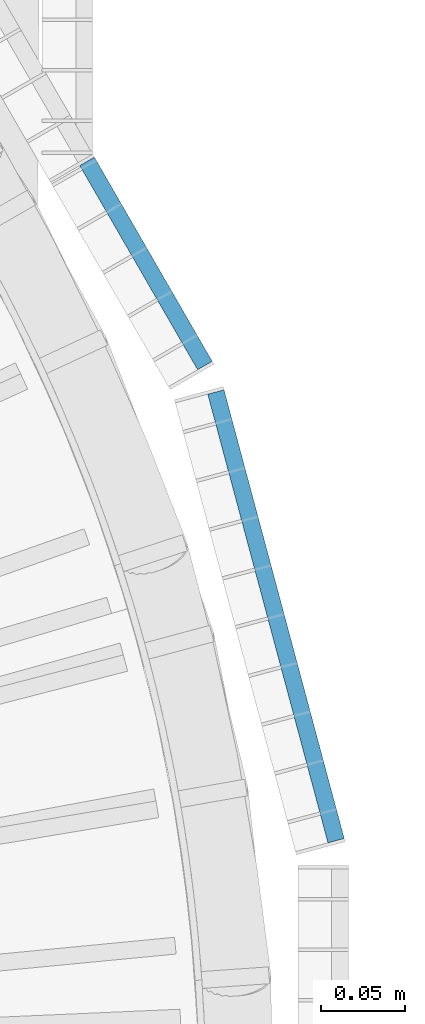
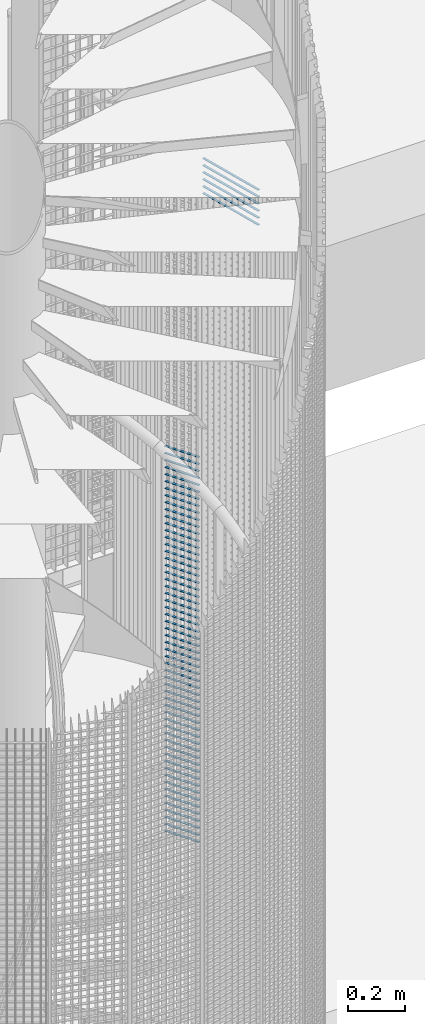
# One storey, part 287 of 1183: 62 beams, 2 elements without a shape of their own.
"""IFC2X3 building model written with IfcOpenShell, lengths in millimetres."""

from ifc_helpers import new_model, si_unit, frame, origin_with_axes, origin_2d_with_axis, place, context, subcontext, project, spatial, rectangle, extrude, material, type_object, element, aggregate, save


model = new_model("IFC2X3")

# Units and contexts
model_context = context("Model", 3, precision=1e-05, world=origin_with_axes())
body_context = subcontext(model_context, "Body", "Model", "MODEL_VIEW")
ifc_project = project(units=[si_unit("LENGTHUNIT", "METRE", prefix="MILLI"), si_unit("AREAUNIT", "SQUARE_METRE"), si_unit("VOLUMEUNIT", "CUBIC_METRE"), si_unit("MASSUNIT", "GRAM", prefix="KILO"), si_unit("TIMEUNIT", "SECOND"), si_unit("PLANEANGLEUNIT", "RADIAN"), si_unit("SOLIDANGLEUNIT", "STERADIAN"), si_unit("THERMODYNAMICTEMPERATUREUNIT", "DEGREE_CELSIUS"), si_unit("LUMINOUSINTENSITYUNIT", "LUMEN")], contexts=[model_context])

# Site, building, storey
site_placement = place(None, origin_with_axes())
site = spatial("IfcSite", under=ifc_project, at=site_placement, Name="Undefined", CompositionType="ELEMENT")
building_placement = place(site_placement, origin_with_axes())
building = spatial("IfcBuilding", under=site, at=building_placement, Name="Undefined", CompositionType="ELEMENT")
storey_placement = place(building_placement, origin_with_axes())
storey = spatial("IfcBuildingStorey", under=building, at=storey_placement, Name="Undefined", CompositionType="ELEMENT", Elevation=0.0)

# Assembly, beams
assembly_1_placement = place(storey_placement, origin_with_axes())
assembly_1 = element("IfcElementAssembly", 1, at=assembly_1_placement, inside=storey, Name="BORDURE", AssemblyPlace="NOTDEFINED", PredefinedType="NOTDEFINED")
ifc_material = material(Name="STEEL/S235JR")
beam_type = type_object("IfcBeamType", Name="PL2*10", PredefinedType="NOTDEFINED")
beam_1_placement = place(assembly_1_placement, frame((1033.29994283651, 437.231999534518, 10680.0), z_axis=(0.866030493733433, 0.499991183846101, 0.0), x_axis=(-0.499991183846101, 0.866030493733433, 0.0)))
beam_1 = element("IfcBeam", 2, at=beam_1_placement, type_object=beam_type, material=ifc_material, Name="ENTRETOISE", context=body_context, shape_type="SweptSolid", body=[
    extrude(rectangle(XDim=2.0, YDim=10.0, at=origin_2d_with_axis()), frame((140.102470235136, 0.0, 0.0), z_axis=(-1.0, 0.0, 0.0), x_axis=(0.0, -1.0, 0.0)), (0.0, 0.0, 1.0), 140.1),
])
beam_2_placement = place(assembly_1_placement, frame((1033.29994283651, 437.231999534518, 10650.0), z_axis=(0.866030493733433, 0.499991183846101, 0.0), x_axis=(-0.499991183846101, 0.866030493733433, 0.0)))
beam_2 = element("IfcBeam", 3, at=beam_2_placement, type_object=beam_type, material=ifc_material, Name="ENTRETOISE", context=body_context, shape_type="SweptSolid", body=[
    extrude(rectangle(XDim=2.0, YDim=10.0, at=origin_2d_with_axis()), frame((140.102470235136, 0.0, 0.0), z_axis=(-1.0, 0.0, 0.0), x_axis=(0.0, -1.0, 0.0)), (0.0, 0.0, 1.0), 140.1),
])
beam_3_placement = place(assembly_1_placement, frame((1033.29994283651, 437.231999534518, 10620.0), z_axis=(0.866030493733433, 0.499991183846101, 0.0), x_axis=(-0.499991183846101, 0.866030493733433, 0.0)))
beam_3 = element("IfcBeam", 4, at=beam_3_placement, type_object=beam_type, material=ifc_material, Name="ENTRETOISE", context=body_context, shape_type="SweptSolid", body=[
    extrude(rectangle(XDim=2.0, YDim=10.0, at=origin_2d_with_axis()), frame((140.102470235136, 0.0, 0.0), z_axis=(-1.0, 0.0, 0.0), x_axis=(0.0, -1.0, 0.0)), (0.0, 0.0, 1.0), 140.1),
])
beam_4_placement = place(assembly_1_placement, frame((1033.29994283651, 437.231999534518, 10590.0), z_axis=(0.866030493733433, 0.499991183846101, 0.0), x_axis=(-0.499991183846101, 0.866030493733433, 0.0)))
beam_4 = element("IfcBeam", 5, at=beam_4_placement, type_object=beam_type, material=ifc_material, Name="ENTRETOISE", context=body_context, shape_type="SweptSolid", body=[
    extrude(rectangle(XDim=2.0, YDim=10.0, at=origin_2d_with_axis()), frame((140.102470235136, 0.0, 0.0), z_axis=(-1.0, 0.0, 0.0), x_axis=(0.0, -1.0, 0.0)), (0.0, 0.0, 1.0), 140.1),
])
beam_5_placement = place(assembly_1_placement, frame((1033.29994283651, 437.231999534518, 10560.0), z_axis=(0.866030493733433, 0.499991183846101, 0.0), x_axis=(-0.499991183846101, 0.866030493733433, 0.0)))
beam_5 = element("IfcBeam", 6, at=beam_5_placement, type_object=beam_type, material=ifc_material, Name="ENTRETOISE", context=body_context, shape_type="SweptSolid", body=[
    extrude(rectangle(XDim=2.0, YDim=10.0, at=origin_2d_with_axis()), frame((140.102470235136, 0.0, 0.0), z_axis=(-1.0, 0.0, 0.0), x_axis=(0.0, -1.0, 0.0)), (0.0, 0.0, 1.0), 140.1),
])
beam_6_placement = place(assembly_1_placement, frame((1033.29994283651, 437.231999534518, 10530.0), z_axis=(0.866030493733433, 0.499991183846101, 0.0), x_axis=(-0.499991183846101, 0.866030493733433, 0.0)))
beam_6 = element("IfcBeam", 7, at=beam_6_placement, type_object=beam_type, material=ifc_material, Name="ENTRETOISE", context=body_context, shape_type="SweptSolid", body=[
    extrude(rectangle(XDim=2.0, YDim=10.0, at=origin_2d_with_axis()), frame((140.102470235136, 0.0, 0.0), z_axis=(-1.0, 0.0, 0.0), x_axis=(0.0, -1.0, 0.0)), (0.0, 0.0, 1.0), 140.1),
])
beam_7_placement = place(assembly_1_placement, frame((1033.29994283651, 437.231999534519, 10500.0), z_axis=(0.866030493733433, 0.499991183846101, 0.0), x_axis=(-0.499991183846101, 0.866030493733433, 0.0)))
beam_7 = element("IfcBeam", 8, at=beam_7_placement, type_object=beam_type, material=ifc_material, Name="ENTRETOISE", context=body_context, shape_type="SweptSolid", body=[
    extrude(rectangle(XDim=2.0, YDim=10.0, at=origin_2d_with_axis()), frame((140.102470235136, 0.0, 0.0), z_axis=(-1.0, 0.0, 0.0), x_axis=(0.0, -1.0, 0.0)), (0.0, 0.0, 1.0), 140.1),
])
beam_8_placement = place(assembly_1_placement, frame((1033.29994283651, 437.231999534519, 10470.0), z_axis=(0.866030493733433, 0.499991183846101, 0.0), x_axis=(-0.499991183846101, 0.866030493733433, 0.0)))
beam_8 = element("IfcBeam", 9, at=beam_8_placement, type_object=beam_type, material=ifc_material, Name="ENTRETOISE", context=body_context, shape_type="SweptSolid", body=[
    extrude(rectangle(XDim=2.0, YDim=10.0, at=origin_2d_with_axis()), frame((140.102470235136, 0.0, 0.0), z_axis=(-1.0, 0.0, 0.0), x_axis=(0.0, -1.0, 0.0)), (0.0, 0.0, 1.0), 140.1),
])
beam_9_placement = place(assembly_1_placement, frame((1033.29994283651, 437.231999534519, 10440.0), z_axis=(0.866030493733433, 0.499991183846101, 0.0), x_axis=(-0.499991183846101, 0.866030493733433, 0.0)))
beam_9 = element("IfcBeam", 10, at=beam_9_placement, type_object=beam_type, material=ifc_material, Name="ENTRETOISE", context=body_context, shape_type="SweptSolid", body=[
    extrude(rectangle(XDim=2.0, YDim=10.0, at=origin_2d_with_axis()), frame((140.102470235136, 0.0, 0.0), z_axis=(-1.0, 0.0, 0.0), x_axis=(0.0, -1.0, 0.0)), (0.0, 0.0, 1.0), 140.1),
])
beam_10_placement = place(assembly_1_placement, frame((1033.29994283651, 437.231999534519, 10410.0), z_axis=(0.866030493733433, 0.499991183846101, 0.0), x_axis=(-0.499991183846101, 0.866030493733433, 0.0)))
beam_10 = element("IfcBeam", 11, at=beam_10_placement, type_object=beam_type, material=ifc_material, Name="ENTRETOISE", context=body_context, shape_type="SweptSolid", body=[
    extrude(rectangle(XDim=2.0, YDim=10.0, at=origin_2d_with_axis()), frame((140.102470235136, 0.0, 0.0), z_axis=(-1.0, 0.0, 0.0), x_axis=(0.0, -1.0, 0.0)), (0.0, 0.0, 1.0), 140.1),
])
beam_11_placement = place(assembly_1_placement, frame((1033.29994283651, 437.231999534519, 10380.0), z_axis=(0.866030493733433, 0.499991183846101, 0.0), x_axis=(-0.499991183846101, 0.866030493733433, 0.0)))
beam_11 = element("IfcBeam", 12, at=beam_11_placement, type_object=beam_type, material=ifc_material, Name="ENTRETOISE", context=body_context, shape_type="SweptSolid", body=[
    extrude(rectangle(XDim=2.0, YDim=10.0, at=origin_2d_with_axis()), frame((140.102470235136, 0.0, 0.0), z_axis=(-1.0, 0.0, 0.0), x_axis=(0.0, -1.0, 0.0)), (0.0, 0.0, 1.0), 140.1),
])
beam_12_placement = place(assembly_1_placement, frame((1033.29994283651, 437.231999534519, 10350.0), z_axis=(0.866030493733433, 0.499991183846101, 0.0), x_axis=(-0.499991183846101, 0.866030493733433, 0.0)))
beam_12 = element("IfcBeam", 13, at=beam_12_placement, type_object=beam_type, material=ifc_material, Name="ENTRETOISE", context=body_context, shape_type="SweptSolid", body=[
    extrude(rectangle(XDim=2.0, YDim=10.0, at=origin_2d_with_axis()), frame((140.102470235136, 0.0, 0.0), z_axis=(-1.0, 0.0, 0.0), x_axis=(0.0, -1.0, 0.0)), (0.0, 0.0, 1.0), 140.1),
])
beam_13_placement = place(assembly_1_placement, frame((1033.29994283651, 437.231999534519, 10320.0), z_axis=(0.866030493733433, 0.499991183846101, 0.0), x_axis=(-0.499991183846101, 0.866030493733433, 0.0)))
beam_13 = element("IfcBeam", 14, at=beam_13_placement, type_object=beam_type, material=ifc_material, Name="ENTRETOISE", context=body_context, shape_type="SweptSolid", body=[
    extrude(rectangle(XDim=2.0, YDim=10.0, at=origin_2d_with_axis()), frame((140.102470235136, 0.0, 0.0), z_axis=(-1.0, 0.0, 0.0), x_axis=(0.0, -1.0, 0.0)), (0.0, 0.0, 1.0), 140.1),
])
beam_14_placement = place(assembly_1_placement, frame((1033.29994283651, 437.231999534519, 10290.0), z_axis=(0.866030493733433, 0.499991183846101, 0.0), x_axis=(-0.499991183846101, 0.866030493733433, 0.0)))
beam_14 = element("IfcBeam", 15, at=beam_14_placement, type_object=beam_type, material=ifc_material, Name="ENTRETOISE", context=body_context, shape_type="SweptSolid", body=[
    extrude(rectangle(XDim=2.0, YDim=10.0, at=origin_2d_with_axis()), frame((140.102470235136, 0.0, 0.0), z_axis=(-1.0, 0.0, 0.0), x_axis=(0.0, -1.0, 0.0)), (0.0, 0.0, 1.0), 140.1),
])
beam_15_placement = place(assembly_1_placement, frame((1033.29994283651, 437.231999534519, 10260.0), z_axis=(0.866030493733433, 0.499991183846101, 0.0), x_axis=(-0.499991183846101, 0.866030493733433, 0.0)))
beam_15 = element("IfcBeam", 16, at=beam_15_placement, type_object=beam_type, material=ifc_material, Name="ENTRETOISE", context=body_context, shape_type="SweptSolid", body=[
    extrude(rectangle(XDim=2.0, YDim=10.0, at=origin_2d_with_axis()), frame((140.102470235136, 0.0, 0.0), z_axis=(-1.0, 0.0, 0.0), x_axis=(0.0, -1.0, 0.0)), (0.0, 0.0, 1.0), 140.1),
])
beam_16_placement = place(assembly_1_placement, frame((1033.29994283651, 437.231999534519, 10230.0), z_axis=(0.866030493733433, 0.499991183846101, 0.0), x_axis=(-0.499991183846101, 0.866030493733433, 0.0)))
beam_16 = element("IfcBeam", 17, at=beam_16_placement, type_object=beam_type, material=ifc_material, Name="ENTRETOISE", context=body_context, shape_type="SweptSolid", body=[
    extrude(rectangle(XDim=2.0, YDim=10.0, at=origin_2d_with_axis()), frame((140.102470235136, 0.0, 0.0), z_axis=(-1.0, 0.0, 0.0), x_axis=(0.0, -1.0, 0.0)), (0.0, 0.0, 1.0), 140.1),
])
beam_17_placement = place(assembly_1_placement, frame((1033.29994283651, 437.231999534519, 10200.0), z_axis=(0.866030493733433, 0.499991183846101, 0.0), x_axis=(-0.499991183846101, 0.866030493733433, 0.0)))
beam_17 = element("IfcBeam", 18, at=beam_17_placement, type_object=beam_type, material=ifc_material, Name="ENTRETOISE", context=body_context, shape_type="SweptSolid", body=[
    extrude(rectangle(XDim=2.0, YDim=10.0, at=origin_2d_with_axis()), frame((140.102470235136, 0.0, 0.0), z_axis=(-1.0, 0.0, 0.0), x_axis=(0.0, -1.0, 0.0)), (0.0, 0.0, 1.0), 140.1),
])
beam_18_placement = place(assembly_1_placement, frame((1033.29994283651, 437.23199953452, 10170.0), z_axis=(0.866030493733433, 0.499991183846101, 0.0), x_axis=(-0.499991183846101, 0.866030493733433, 0.0)))
beam_18 = element("IfcBeam", 19, at=beam_18_placement, type_object=beam_type, material=ifc_material, Name="ENTRETOISE", context=body_context, shape_type="SweptSolid", body=[
    extrude(rectangle(XDim=2.0, YDim=10.0, at=origin_2d_with_axis()), frame((140.102470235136, 0.0, 0.0), z_axis=(-1.0, 0.0, 0.0), x_axis=(0.0, -1.0, 0.0)), (0.0, 0.0, 1.0), 140.1),
])
beam_19_placement = place(assembly_1_placement, frame((1033.29994283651, 437.23199953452, 10140.0), z_axis=(0.866030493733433, 0.499991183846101, 0.0), x_axis=(-0.499991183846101, 0.866030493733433, 0.0)))
beam_19 = element("IfcBeam", 20, at=beam_19_placement, type_object=beam_type, material=ifc_material, Name="ENTRETOISE", context=body_context, shape_type="SweptSolid", body=[
    extrude(rectangle(XDim=2.0, YDim=10.0, at=origin_2d_with_axis()), frame((140.102470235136, 0.0, 0.0), z_axis=(-1.0, 0.0, 0.0), x_axis=(0.0, -1.0, 0.0)), (0.0, 0.0, 1.0), 140.1),
])
beam_20_placement = place(assembly_1_placement, frame((1033.29994283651, 437.231999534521, 9720.0), z_axis=(0.866030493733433, 0.499991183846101, 0.0), x_axis=(-0.499991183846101, 0.866030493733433, 0.0)))
beam_20 = element("IfcBeam", 21, at=beam_20_placement, type_object=beam_type, material=ifc_material, Name="ENTRETOISE", context=body_context, shape_type="SweptSolid", body=[
    extrude(rectangle(XDim=2.0, YDim=10.0, at=origin_2d_with_axis()), frame((140.102470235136, 0.0, 0.0), z_axis=(-1.0, 0.0, 0.0), x_axis=(0.0, -1.0, 0.0)), (0.0, 0.0, 1.0), 140.1),
])
beam_21_placement = place(assembly_1_placement, frame((1033.29994283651, 437.231999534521, 9690.0), z_axis=(0.866030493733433, 0.499991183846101, 0.0), x_axis=(-0.499991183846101, 0.866030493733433, 0.0)))
beam_21 = element("IfcBeam", 22, at=beam_21_placement, type_object=beam_type, material=ifc_material, Name="ENTRETOISE", context=body_context, shape_type="SweptSolid", body=[
    extrude(rectangle(XDim=2.0, YDim=10.0, at=origin_2d_with_axis()), frame((140.102470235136, 0.0, 0.0), z_axis=(-1.0, 0.0, 0.0), x_axis=(0.0, -1.0, 0.0)), (0.0, 0.0, 1.0), 140.1),
])
beam_22_placement = place(assembly_1_placement, frame((1033.29994283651, 437.231999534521, 9750.0), z_axis=(0.866030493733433, 0.499991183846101, 0.0), x_axis=(-0.499991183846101, 0.866030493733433, 0.0)))
beam_22 = element("IfcBeam", 23, at=beam_22_placement, type_object=beam_type, material=ifc_material, Name="ENTRETOISE", context=body_context, shape_type="SweptSolid", body=[
    extrude(rectangle(XDim=2.0, YDim=10.0, at=origin_2d_with_axis()), frame((140.102470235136, 0.0, 0.0), z_axis=(-1.0, 0.0, 0.0), x_axis=(0.0, -1.0, 0.0)), (0.0, 0.0, 1.0), 140.1),
])
beam_23_placement = place(assembly_1_placement, frame((1033.29994283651, 437.231999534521, 9660.0), z_axis=(0.866030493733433, 0.499991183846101, 0.0), x_axis=(-0.499991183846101, 0.866030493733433, 0.0)))
beam_23 = element("IfcBeam", 24, at=beam_23_placement, type_object=beam_type, material=ifc_material, Name="ENTRETOISE", context=body_context, shape_type="SweptSolid", body=[
    extrude(rectangle(XDim=2.0, YDim=10.0, at=origin_2d_with_axis()), frame((140.102470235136, 0.0, 0.0), z_axis=(-1.0, 0.0, 0.0), x_axis=(0.0, -1.0, 0.0)), (0.0, 0.0, 1.0), 140.1),
])
beam_24_placement = place(assembly_1_placement, frame((1033.29994283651, 437.231999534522, 9630.0), z_axis=(0.866030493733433, 0.499991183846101, 0.0), x_axis=(-0.499991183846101, 0.866030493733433, 0.0)))
beam_24 = element("IfcBeam", 25, at=beam_24_placement, type_object=beam_type, material=ifc_material, Name="ENTRETOISE", context=body_context, shape_type="SweptSolid", body=[
    extrude(rectangle(XDim=2.0, YDim=10.0, at=origin_2d_with_axis()), frame((140.102470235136, 0.0, 0.0), z_axis=(-1.0, 0.0, 0.0), x_axis=(0.0, -1.0, 0.0)), (0.0, 0.0, 1.0), 140.1),
])
beam_25_placement = place(assembly_1_placement, frame((1033.29994283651, 437.231999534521, 9780.0), z_axis=(0.866030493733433, 0.499991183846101, 0.0), x_axis=(-0.499991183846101, 0.866030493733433, 0.0)))
beam_25 = element("IfcBeam", 26, at=beam_25_placement, type_object=beam_type, material=ifc_material, Name="ENTRETOISE", context=body_context, shape_type="SweptSolid", body=[
    extrude(rectangle(XDim=2.0, YDim=10.0, at=origin_2d_with_axis()), frame((140.102470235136, 0.0, 0.0), z_axis=(-1.0, 0.0, 0.0), x_axis=(0.0, -1.0, 0.0)), (0.0, 0.0, 1.0), 140.1),
])
beam_26_placement = place(assembly_1_placement, frame((1033.29994283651, 437.231999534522, 9600.0), z_axis=(0.866030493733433, 0.499991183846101, 0.0), x_axis=(-0.499991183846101, 0.866030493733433, 0.0)))
beam_26 = element("IfcBeam", 27, at=beam_26_placement, type_object=beam_type, material=ifc_material, Name="ENTRETOISE", context=body_context, shape_type="SweptSolid", body=[
    extrude(rectangle(XDim=2.0, YDim=10.0, at=origin_2d_with_axis()), frame((140.102470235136, 0.0, 0.0), z_axis=(-1.0, 0.0, 0.0), x_axis=(0.0, -1.0, 0.0)), (0.0, 0.0, 1.0), 140.1),
])
beam_27_placement = place(assembly_1_placement, frame((1033.29994283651, 437.231999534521, 9810.0), z_axis=(0.866030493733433, 0.499991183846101, 0.0), x_axis=(-0.499991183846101, 0.866030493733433, 0.0)))
beam_27 = element("IfcBeam", 28, at=beam_27_placement, type_object=beam_type, material=ifc_material, Name="ENTRETOISE", context=body_context, shape_type="SweptSolid", body=[
    extrude(rectangle(XDim=2.0, YDim=10.0, at=origin_2d_with_axis()), frame((140.102470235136, 0.0, 0.0), z_axis=(-1.0, 0.0, 0.0), x_axis=(0.0, -1.0, 0.0)), (0.0, 0.0, 1.0), 140.1),
])
beam_28_placement = place(assembly_1_placement, frame((1033.29994283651, 437.231999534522, 9570.0), z_axis=(0.866030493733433, 0.499991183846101, 0.0), x_axis=(-0.499991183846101, 0.866030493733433, 0.0)))
beam_28 = element("IfcBeam", 29, at=beam_28_placement, type_object=beam_type, material=ifc_material, Name="ENTRETOISE", context=body_context, shape_type="SweptSolid", body=[
    extrude(rectangle(XDim=2.0, YDim=10.0, at=origin_2d_with_axis()), frame((140.102470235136, 0.0, 0.0), z_axis=(-1.0, 0.0, 0.0), x_axis=(0.0, -1.0, 0.0)), (0.0, 0.0, 1.0), 140.1),
])
beam_29_placement = place(assembly_1_placement, frame((1033.29994283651, 437.231999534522, 9540.0), z_axis=(0.866030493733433, 0.499991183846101, 0.0), x_axis=(-0.499991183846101, 0.866030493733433, 0.0)))
beam_29 = element("IfcBeam", 30, at=beam_29_placement, type_object=beam_type, material=ifc_material, Name="ENTRETOISE", context=body_context, shape_type="SweptSolid", body=[
    extrude(rectangle(XDim=2.0, YDim=10.0, at=origin_2d_with_axis()), frame((140.102470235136, 0.0, 0.0), z_axis=(-1.0, 0.0, 0.0), x_axis=(0.0, -1.0, 0.0)), (0.0, 0.0, 1.0), 140.1),
])
beam_30_placement = place(assembly_1_placement, frame((1033.29994283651, 437.231999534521, 9840.0), z_axis=(0.866030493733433, 0.499991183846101, 0.0), x_axis=(-0.499991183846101, 0.866030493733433, 0.0)))
beam_30 = element("IfcBeam", 31, at=beam_30_placement, type_object=beam_type, material=ifc_material, Name="ENTRETOISE", context=body_context, shape_type="SweptSolid", body=[
    extrude(rectangle(XDim=2.0, YDim=10.0, at=origin_2d_with_axis()), frame((140.102470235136, 0.0, 0.0), z_axis=(-1.0, 0.0, 0.0), x_axis=(0.0, -1.0, 0.0)), (0.0, 0.0, 1.0), 140.1),
])
beam_31_placement = place(assembly_1_placement, frame((1033.29994283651, 437.231999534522, 9510.0), z_axis=(0.866030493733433, 0.499991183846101, 0.0), x_axis=(-0.499991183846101, 0.866030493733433, 0.0)))
beam_31 = element("IfcBeam", 32, at=beam_31_placement, type_object=beam_type, material=ifc_material, Name="ENTRETOISE", context=body_context, shape_type="SweptSolid", body=[
    extrude(rectangle(XDim=2.0, YDim=10.0, at=origin_2d_with_axis()), frame((140.102470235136, 0.0, 0.0), z_axis=(-1.0, 0.0, 0.0), x_axis=(0.0, -1.0, 0.0)), (0.0, 0.0, 1.0), 140.1),
])
beam_32_placement = place(assembly_1_placement, frame((1033.29994283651, 437.231999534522, 9480.0), z_axis=(0.866030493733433, 0.499991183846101, 0.0), x_axis=(-0.499991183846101, 0.866030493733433, 0.0)))
beam_32 = element("IfcBeam", 33, at=beam_32_placement, type_object=beam_type, material=ifc_material, Name="ENTRETOISE", context=body_context, shape_type="SweptSolid", body=[
    extrude(rectangle(XDim=2.0, YDim=10.0, at=origin_2d_with_axis()), frame((140.102470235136, 0.0, 0.0), z_axis=(-1.0, 0.0, 0.0), x_axis=(0.0, -1.0, 0.0)), (0.0, 0.0, 1.0), 140.1),
])
beam_33_placement = place(assembly_1_placement, frame((1033.29994283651, 437.231999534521, 9870.0), z_axis=(0.866030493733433, 0.499991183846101, 0.0), x_axis=(-0.499991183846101, 0.866030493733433, 0.0)))
beam_33 = element("IfcBeam", 34, at=beam_33_placement, type_object=beam_type, material=ifc_material, Name="ENTRETOISE", context=body_context, shape_type="SweptSolid", body=[
    extrude(rectangle(XDim=2.0, YDim=10.0, at=origin_2d_with_axis()), frame((140.102470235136, 0.0, 0.0), z_axis=(-1.0, 0.0, 0.0), x_axis=(0.0, -1.0, 0.0)), (0.0, 0.0, 1.0), 140.1),
])
beam_34_placement = place(assembly_1_placement, frame((1033.29994283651, 437.231999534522, 9450.0), z_axis=(0.866030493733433, 0.499991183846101, 0.0), x_axis=(-0.499991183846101, 0.866030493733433, 0.0)))
beam_34 = element("IfcBeam", 35, at=beam_34_placement, type_object=beam_type, material=ifc_material, Name="ENTRETOISE", context=body_context, shape_type="SweptSolid", body=[
    extrude(rectangle(XDim=2.0, YDim=10.0, at=origin_2d_with_axis()), frame((140.102470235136, 0.0, 0.0), z_axis=(-1.0, 0.0, 0.0), x_axis=(0.0, -1.0, 0.0)), (0.0, 0.0, 1.0), 140.1),
])
beam_35_placement = place(assembly_1_placement, frame((1033.29994283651, 437.231999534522, 9420.0), z_axis=(0.866030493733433, 0.499991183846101, 0.0), x_axis=(-0.499991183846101, 0.866030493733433, 0.0)))
beam_35 = element("IfcBeam", 36, at=beam_35_placement, type_object=beam_type, material=ifc_material, Name="ENTRETOISE", context=body_context, shape_type="SweptSolid", body=[
    extrude(rectangle(XDim=2.0, YDim=10.0, at=origin_2d_with_axis()), frame((140.102470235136, 0.0, 0.0), z_axis=(-1.0, 0.0, 0.0), x_axis=(0.0, -1.0, 0.0)), (0.0, 0.0, 1.0), 140.1),
])
beam_36_placement = place(assembly_1_placement, frame((1033.29994283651, 437.231999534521, 9900.0), z_axis=(0.866030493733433, 0.499991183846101, 0.0), x_axis=(-0.499991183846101, 0.866030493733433, 0.0)))
beam_36 = element("IfcBeam", 37, at=beam_36_placement, type_object=beam_type, material=ifc_material, Name="ENTRETOISE", context=body_context, shape_type="SweptSolid", body=[
    extrude(rectangle(XDim=2.0, YDim=10.0, at=origin_2d_with_axis()), frame((140.102470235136, 0.0, 0.0), z_axis=(-1.0, 0.0, 0.0), x_axis=(0.0, -1.0, 0.0)), (0.0, 0.0, 1.0), 140.1),
])
beam_37_placement = place(assembly_1_placement, frame((1033.29994283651, 437.231999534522, 9390.0), z_axis=(0.866030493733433, 0.499991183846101, 0.0), x_axis=(-0.499991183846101, 0.866030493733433, 0.0)))
beam_37 = element("IfcBeam", 38, at=beam_37_placement, type_object=beam_type, material=ifc_material, Name="ENTRETOISE", context=body_context, shape_type="SweptSolid", body=[
    extrude(rectangle(XDim=2.0, YDim=10.0, at=origin_2d_with_axis()), frame((140.102470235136, 0.0, 0.0), z_axis=(-1.0, 0.0, 0.0), x_axis=(0.0, -1.0, 0.0)), (0.0, 0.0, 1.0), 140.1),
])
beam_38_placement = place(assembly_1_placement, frame((1033.29994283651, 437.23199953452, 9930.0), z_axis=(0.866030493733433, 0.499991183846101, 0.0), x_axis=(-0.499991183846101, 0.866030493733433, 0.0)))
beam_38 = element("IfcBeam", 39, at=beam_38_placement, type_object=beam_type, material=ifc_material, Name="ENTRETOISE", context=body_context, shape_type="SweptSolid", body=[
    extrude(rectangle(XDim=2.0, YDim=10.0, at=origin_2d_with_axis()), frame((140.102470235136, 0.0, 0.0), z_axis=(-1.0, 0.0, 0.0), x_axis=(0.0, -1.0, 0.0)), (0.0, 0.0, 1.0), 140.1),
])
beam_39_placement = place(assembly_1_placement, frame((1033.29994283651, 437.231999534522, 9360.0), z_axis=(0.866030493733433, 0.499991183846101, 0.0), x_axis=(-0.499991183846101, 0.866030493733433, 0.0)))
beam_39 = element("IfcBeam", 40, at=beam_39_placement, type_object=beam_type, material=ifc_material, Name="ENTRETOISE", context=body_context, shape_type="SweptSolid", body=[
    extrude(rectangle(XDim=2.0, YDim=10.0, at=origin_2d_with_axis()), frame((140.102470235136, 0.0, 0.0), z_axis=(-1.0, 0.0, 0.0), x_axis=(0.0, -1.0, 0.0)), (0.0, 0.0, 1.0), 140.1),
])
beam_40_placement = place(assembly_1_placement, frame((1033.29994283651, 437.231999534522, 9330.0), z_axis=(0.866030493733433, 0.499991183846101, 0.0), x_axis=(-0.499991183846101, 0.866030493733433, 0.0)))
beam_40 = element("IfcBeam", 41, at=beam_40_placement, type_object=beam_type, material=ifc_material, Name="ENTRETOISE", context=body_context, shape_type="SweptSolid", body=[
    extrude(rectangle(XDim=2.0, YDim=10.0, at=origin_2d_with_axis()), frame((140.102470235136, 0.0, 0.0), z_axis=(-1.0, 0.0, 0.0), x_axis=(0.0, -1.0, 0.0)), (0.0, 0.0, 1.0), 140.1),
])
beam_41_placement = place(assembly_1_placement, frame((1033.29994283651, 437.23199953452, 9960.0), z_axis=(0.866030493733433, 0.499991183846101, 0.0), x_axis=(-0.499991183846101, 0.866030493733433, 0.0)))
beam_41 = element("IfcBeam", 42, at=beam_41_placement, type_object=beam_type, material=ifc_material, Name="ENTRETOISE", context=body_context, shape_type="SweptSolid", body=[
    extrude(rectangle(XDim=2.0, YDim=10.0, at=origin_2d_with_axis()), frame((140.102470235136, 0.0, 0.0), z_axis=(-1.0, 0.0, 0.0), x_axis=(0.0, -1.0, 0.0)), (0.0, 0.0, 1.0), 140.1),
])
beam_42_placement = place(assembly_1_placement, frame((1033.29994283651, 437.231999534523, 9300.0), z_axis=(0.866030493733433, 0.499991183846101, 0.0), x_axis=(-0.499991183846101, 0.866030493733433, 0.0)))
beam_42 = element("IfcBeam", 43, at=beam_42_placement, type_object=beam_type, material=ifc_material, Name="ENTRETOISE", context=body_context, shape_type="SweptSolid", body=[
    extrude(rectangle(XDim=2.0, YDim=10.0, at=origin_2d_with_axis()), frame((140.102470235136, 0.0, 0.0), z_axis=(-1.0, 0.0, 0.0), x_axis=(0.0, -1.0, 0.0)), (0.0, 0.0, 1.0), 140.1),
])
beam_43_placement = place(assembly_1_placement, frame((1033.29994283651, 437.231999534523, 9270.0), z_axis=(0.866030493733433, 0.499991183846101, 0.0), x_axis=(-0.499991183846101, 0.866030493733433, 0.0)))
beam_43 = element("IfcBeam", 44, at=beam_43_placement, type_object=beam_type, material=ifc_material, Name="ENTRETOISE", context=body_context, shape_type="SweptSolid", body=[
    extrude(rectangle(XDim=2.0, YDim=10.0, at=origin_2d_with_axis()), frame((140.102470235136, 0.0, 0.0), z_axis=(-1.0, 0.0, 0.0), x_axis=(0.0, -1.0, 0.0)), (0.0, 0.0, 1.0), 140.1),
])
beam_44_placement = place(assembly_1_placement, frame((1033.29994283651, 437.23199953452, 9990.0), z_axis=(0.866030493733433, 0.499991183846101, 0.0), x_axis=(-0.499991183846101, 0.866030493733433, 0.0)))
beam_44 = element("IfcBeam", 45, at=beam_44_placement, type_object=beam_type, material=ifc_material, Name="ENTRETOISE", context=body_context, shape_type="SweptSolid", body=[
    extrude(rectangle(XDim=2.0, YDim=10.0, at=origin_2d_with_axis()), frame((140.102470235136, 0.0, 0.0), z_axis=(-1.0, 0.0, 0.0), x_axis=(0.0, -1.0, 0.0)), (0.0, 0.0, 1.0), 140.1),
])
beam_45_placement = place(assembly_1_placement, frame((1033.29994283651, 437.231999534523, 9240.0), z_axis=(0.866030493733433, 0.499991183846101, 0.0), x_axis=(-0.499991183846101, 0.866030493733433, 0.0)))
beam_45 = element("IfcBeam", 46, at=beam_45_placement, type_object=beam_type, material=ifc_material, Name="ENTRETOISE", context=body_context, shape_type="SweptSolid", body=[
    extrude(rectangle(XDim=2.0, YDim=10.0, at=origin_2d_with_axis()), frame((140.102470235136, 0.0, 0.0), z_axis=(-1.0, 0.0, 0.0), x_axis=(0.0, -1.0, 0.0)), (0.0, 0.0, 1.0), 140.1),
])
beam_46_placement = place(assembly_1_placement, frame((1033.29994283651, 437.23199953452, 10020.0), z_axis=(0.866030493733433, 0.499991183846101, 0.0), x_axis=(-0.499991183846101, 0.866030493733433, 0.0)))
beam_46 = element("IfcBeam", 47, at=beam_46_placement, type_object=beam_type, material=ifc_material, Name="ENTRETOISE", context=body_context, shape_type="SweptSolid", body=[
    extrude(rectangle(XDim=2.0, YDim=10.0, at=origin_2d_with_axis()), frame((140.102470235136, 0.0, 0.0), z_axis=(-1.0, 0.0, 0.0), x_axis=(0.0, -1.0, 0.0)), (0.0, 0.0, 1.0), 140.1),
])
beam_47_placement = place(assembly_1_placement, frame((1033.29994283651, 437.231999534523, 9210.0), z_axis=(0.866030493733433, 0.499991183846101, 0.0), x_axis=(-0.499991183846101, 0.866030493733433, 0.0)))
beam_47 = element("IfcBeam", 48, at=beam_47_placement, type_object=beam_type, material=ifc_material, Name="ENTRETOISE", context=body_context, shape_type="SweptSolid", body=[
    extrude(rectangle(XDim=2.0, YDim=10.0, at=origin_2d_with_axis()), frame((140.102470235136, 0.0, 0.0), z_axis=(-1.0, 0.0, 0.0), x_axis=(0.0, -1.0, 0.0)), (0.0, 0.0, 1.0), 140.1),
])
beam_48_placement = place(assembly_1_placement, frame((1033.29994283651, 437.231999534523, 9180.0), z_axis=(0.866030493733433, 0.499991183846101, 0.0), x_axis=(-0.499991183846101, 0.866030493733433, 0.0)))
beam_48 = element("IfcBeam", 49, at=beam_48_placement, type_object=beam_type, material=ifc_material, Name="ENTRETOISE", context=body_context, shape_type="SweptSolid", body=[
    extrude(rectangle(XDim=2.0, YDim=10.0, at=origin_2d_with_axis()), frame((140.102470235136, 0.0, 0.0), z_axis=(-1.0, 0.0, 0.0), x_axis=(0.0, -1.0, 0.0)), (0.0, 0.0, 1.0), 140.1),
])
beam_49_placement = place(assembly_1_placement, frame((1033.29994283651, 437.23199953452, 10050.0), z_axis=(0.866030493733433, 0.499991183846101, 0.0), x_axis=(-0.499991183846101, 0.866030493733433, 0.0)))
beam_49 = element("IfcBeam", 50, at=beam_49_placement, type_object=beam_type, material=ifc_material, Name="ENTRETOISE", context=body_context, shape_type="SweptSolid", body=[
    extrude(rectangle(XDim=2.0, YDim=10.0, at=origin_2d_with_axis()), frame((140.102470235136, 0.0, 0.0), z_axis=(-1.0, 0.0, 0.0), x_axis=(0.0, -1.0, 0.0)), (0.0, 0.0, 1.0), 140.1),
])
beam_50_placement = place(assembly_1_placement, frame((1033.29994283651, 437.231999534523, 9150.0), z_axis=(0.866030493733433, 0.499991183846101, 0.0), x_axis=(-0.499991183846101, 0.866030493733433, 0.0)))
beam_50 = element("IfcBeam", 51, at=beam_50_placement, type_object=beam_type, material=ifc_material, Name="ENTRETOISE", context=body_context, shape_type="SweptSolid", body=[
    extrude(rectangle(XDim=2.0, YDim=10.0, at=origin_2d_with_axis()), frame((140.102470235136, 0.0, 0.0), z_axis=(-1.0, 0.0, 0.0), x_axis=(0.0, -1.0, 0.0)), (0.0, 0.0, 1.0), 140.1),
])
beam_51_placement = place(assembly_1_placement, frame((1033.29994283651, 437.231999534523, 9120.0), z_axis=(0.866030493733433, 0.499991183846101, 0.0), x_axis=(-0.499991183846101, 0.866030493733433, 0.0)))
beam_51 = element("IfcBeam", 52, at=beam_51_placement, type_object=beam_type, material=ifc_material, Name="ENTRETOISE", context=body_context, shape_type="SweptSolid", body=[
    extrude(rectangle(XDim=2.0, YDim=10.0, at=origin_2d_with_axis()), frame((140.102470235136, 0.0, 0.0), z_axis=(-1.0, 0.0, 0.0), x_axis=(0.0, -1.0, 0.0)), (0.0, 0.0, 1.0), 140.1),
])
beam_52_placement = place(assembly_1_placement, frame((1033.29994283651, 437.23199953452, 10080.0), z_axis=(0.866030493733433, 0.499991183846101, 0.0), x_axis=(-0.499991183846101, 0.866030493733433, 0.0)))
beam_52 = element("IfcBeam", 53, at=beam_52_placement, type_object=beam_type, material=ifc_material, Name="ENTRETOISE", context=body_context, shape_type="SweptSolid", body=[
    extrude(rectangle(XDim=2.0, YDim=10.0, at=origin_2d_with_axis()), frame((140.102470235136, 0.0, 0.0), z_axis=(-1.0, 0.0, 0.0), x_axis=(0.0, -1.0, 0.0)), (0.0, 0.0, 1.0), 140.1),
])
beam_53_placement = place(assembly_1_placement, frame((1033.29994283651, 437.231999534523, 9090.0), z_axis=(0.866030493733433, 0.499991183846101, 0.0), x_axis=(-0.499991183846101, 0.866030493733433, 0.0)))
beam_53 = element("IfcBeam", 54, at=beam_53_placement, type_object=beam_type, material=ifc_material, Name="ENTRETOISE", context=body_context, shape_type="SweptSolid", body=[
    extrude(rectangle(XDim=2.0, YDim=10.0, at=origin_2d_with_axis()), frame((140.102470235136, 0.0, 0.0), z_axis=(-1.0, 0.0, 0.0), x_axis=(0.0, -1.0, 0.0)), (0.0, 0.0, 1.0), 140.1),
])
beam_54_placement = place(assembly_1_placement, frame((1033.2999428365, 437.231999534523, 9060.0), z_axis=(0.866030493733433, 0.499991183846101, 0.0), x_axis=(-0.499991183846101, 0.866030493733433, 0.0)))
beam_54 = element("IfcBeam", 55, at=beam_54_placement, type_object=beam_type, material=ifc_material, Name="ENTRETOISE", context=body_context, shape_type="SweptSolid", body=[
    extrude(rectangle(XDim=2.0, YDim=10.0, at=origin_2d_with_axis()), frame((140.102470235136, 0.0, 0.0), z_axis=(-1.0, 0.0, 0.0), x_axis=(0.0, -1.0, 0.0)), (0.0, 0.0, 1.0), 140.1),
])
beam_55_placement = place(assembly_1_placement, frame((1033.29994283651, 437.23199953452, 10110.0), z_axis=(0.866030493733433, 0.499991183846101, 0.0), x_axis=(-0.499991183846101, 0.866030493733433, 0.0)))
beam_55 = element("IfcBeam", 56, at=beam_55_placement, type_object=beam_type, material=ifc_material, Name="ENTRETOISE", context=body_context, shape_type="SweptSolid", body=[
    extrude(rectangle(XDim=2.0, YDim=10.0, at=origin_2d_with_axis()), frame((140.102470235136, 0.0, 0.0), z_axis=(-1.0, 0.0, 0.0), x_axis=(0.0, -1.0, 0.0)), (0.0, 0.0, 1.0), 140.1),
])
beam_56_placement = place(assembly_1_placement, frame((1033.2999428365, 437.231999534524, 9030.0), z_axis=(0.866030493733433, 0.499991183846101, 0.0), x_axis=(-0.499991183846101, 0.866030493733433, 0.0)))
beam_56 = element("IfcBeam", 57, at=beam_56_placement, type_object=beam_type, material=ifc_material, Name="ENTRETOISE", context=body_context, shape_type="SweptSolid", body=[
    extrude(rectangle(XDim=2.0, YDim=10.0, at=origin_2d_with_axis()), frame((140.102470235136, 0.0, 0.0), z_axis=(-1.0, 0.0, 0.0), x_axis=(0.0, -1.0, 0.0)), (0.0, 0.0, 1.0), 140.1),
])
aggregate(assembly_1, [beam_1, beam_2, beam_3, beam_4, beam_5, beam_6, beam_7, beam_8, beam_9, beam_10, beam_11, beam_12, beam_13, beam_14, beam_15, beam_16, beam_17, beam_18, beam_19, beam_20, beam_21, beam_22, beam_23, beam_24, beam_25, beam_26, beam_27, beam_28, beam_29, beam_30, beam_31, beam_32, beam_33, beam_34, beam_35, beam_36, beam_37, beam_38, beam_39, beam_40, beam_41, beam_42, beam_43, beam_44, beam_45, beam_46, beam_47, beam_48, beam_49, beam_50, beam_51, beam_52, beam_53, beam_54, beam_55, beam_56])

assembly_2_placement = place(storey_placement, origin_with_axes())
assembly_2 = element("IfcElementAssembly", 58, at=assembly_2_placement, inside=storey, Name="BORDURE", AssemblyPlace="NOTDEFINED", PredefinedType="NOTDEFINED")
beam_57_placement = place(assembly_2_placement, frame((1111.25508286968, 154.895926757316, 11970.0), z_axis=(0.965925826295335, 0.258819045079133, 0.0), x_axis=(-0.258819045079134, 0.965925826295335, 0.0)))
beam_57 = element("IfcBeam", 59, at=beam_57_placement, type_object=beam_type, material=ifc_material, Name="ENTRETOISE", context=body_context, shape_type="SweptSolid", body=[
    extrude(rectangle(XDim=2.0, YDim=10.0, at=origin_2d_with_axis()), frame((275.999999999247, 9.09494701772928e-13, 1.53210777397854e-14), z_axis=(-1.0, 0.0, 0.0), x_axis=(0.0, -1.0, 0.0)), (0.0, 0.0, 1.0), 276.0),
])
beam_58_placement = place(assembly_2_placement, frame((1111.25508286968, 154.895926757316, 11940.0), z_axis=(0.965925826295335, 0.258819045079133, 0.0), x_axis=(-0.258819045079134, 0.965925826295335, 0.0)))
beam_58 = element("IfcBeam", 60, at=beam_58_placement, type_object=beam_type, material=ifc_material, Name="ENTRETOISE", context=body_context, shape_type="SweptSolid", body=[
    extrude(rectangle(XDim=2.0, YDim=10.0, at=origin_2d_with_axis()), frame((275.999999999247, 9.09494701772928e-13, 1.53210777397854e-14), z_axis=(-1.0, 0.0, 0.0), x_axis=(0.0, -1.0, 0.0)), (0.0, 0.0, 1.0), 276.0),
])
beam_59_placement = place(assembly_2_placement, frame((1111.25508286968, 154.895926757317, 11910.0), z_axis=(0.965925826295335, 0.258819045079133, 0.0), x_axis=(-0.258819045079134, 0.965925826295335, 0.0)))
beam_59 = element("IfcBeam", 61, at=beam_59_placement, type_object=beam_type, material=ifc_material, Name="ENTRETOISE", context=body_context, shape_type="SweptSolid", body=[
    extrude(rectangle(XDim=2.0, YDim=10.0, at=origin_2d_with_axis()), frame((275.999999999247, 9.09494701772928e-13, 1.53210777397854e-14), z_axis=(-1.0, 0.0, 0.0), x_axis=(0.0, -1.0, 0.0)), (0.0, 0.0, 1.0), 276.0),
])
beam_60_placement = place(assembly_2_placement, frame((1111.25508286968, 154.895926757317, 11880.0), z_axis=(0.965925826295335, 0.258819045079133, 0.0), x_axis=(-0.258819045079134, 0.965925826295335, 0.0)))
beam_60 = element("IfcBeam", 62, at=beam_60_placement, type_object=beam_type, material=ifc_material, Name="ENTRETOISE", context=body_context, shape_type="SweptSolid", body=[
    extrude(rectangle(XDim=2.0, YDim=10.0, at=origin_2d_with_axis()), frame((275.999999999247, 9.09494701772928e-13, 1.53210777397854e-14), z_axis=(-1.0, 0.0, 0.0), x_axis=(0.0, -1.0, 0.0)), (0.0, 0.0, 1.0), 276.0),
])
beam_61_placement = place(assembly_2_placement, frame((1111.25508286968, 154.895926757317, 11850.0), z_axis=(0.965925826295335, 0.258819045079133, 0.0), x_axis=(-0.258819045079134, 0.965925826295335, 0.0)))
beam_61 = element("IfcBeam", 63, at=beam_61_placement, type_object=beam_type, material=ifc_material, Name="ENTRETOISE", context=body_context, shape_type="SweptSolid", body=[
    extrude(rectangle(XDim=2.0, YDim=10.0, at=origin_2d_with_axis()), frame((275.999999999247, 9.09494701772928e-13, 1.53210777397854e-14), z_axis=(-1.0, 0.0, 0.0), x_axis=(0.0, -1.0, 0.0)), (0.0, 0.0, 1.0), 276.0),
])
beam_62_placement = place(assembly_2_placement, frame((1111.25508286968, 154.895926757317, 11820.0), z_axis=(0.965925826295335, 0.258819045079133, 0.0), x_axis=(-0.258819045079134, 0.965925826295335, 0.0)))
beam_62 = element("IfcBeam", 64, at=beam_62_placement, type_object=beam_type, material=ifc_material, Name="ENTRETOISE", context=body_context, shape_type="SweptSolid", body=[
    extrude(rectangle(XDim=2.0, YDim=10.0, at=origin_2d_with_axis()), frame((275.999999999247, 9.09494701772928e-13, 1.53210777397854e-14), z_axis=(-1.0, 0.0, 0.0), x_axis=(0.0, -1.0, 0.0)), (0.0, 0.0, 1.0), 276.0),
])
aggregate(assembly_2, [beam_57, beam_58, beam_59, beam_60, beam_61, beam_62])

save(model, "model.ifc")
